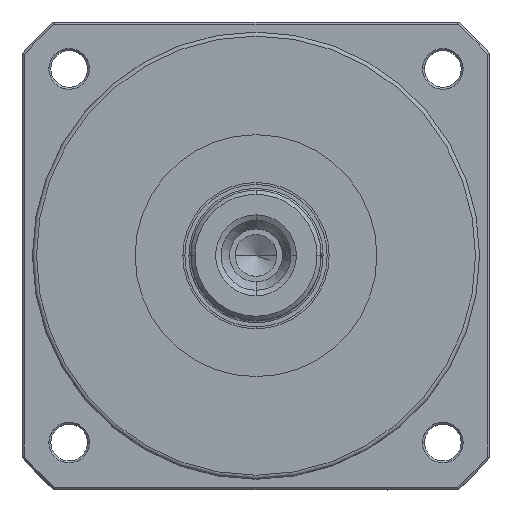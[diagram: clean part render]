
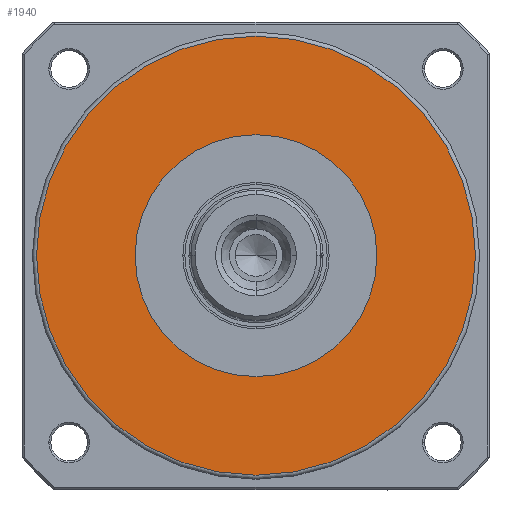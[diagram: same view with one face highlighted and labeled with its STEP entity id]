
A CAD part, top view. The second image highlights one B-rep face of the part: STEP entity #1940.
In plain terms, the highlighted planar face has unit normal (0, 0, 1).
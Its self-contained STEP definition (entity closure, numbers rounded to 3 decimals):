
#1940=ADVANCED_FACE('',(#2538,#2539),#2364,.T.);
#2364=PLANE('',#7642);
#2538=FACE_BOUND('',#2809,.T.);
#2539=FACE_BOUND('',#2810,.T.);
#2809=EDGE_LOOP('',(#3556,#3557));
#2810=EDGE_LOOP('',(#3558));
#3556=ORIENTED_EDGE('',*,*,#6191,.T.);
#3557=ORIENTED_EDGE('',*,*,#6193,.T.);
#3558=ORIENTED_EDGE('',*,*,#6108,.F.);
#5422=VERTEX_POINT('',#10727);
#5478=VERTEX_POINT('',#11161);
#5479=VERTEX_POINT('',#11163);
#6108=EDGE_CURVE('',#5422,#5422,#7130,.T.);
#6191=EDGE_CURVE('',#5479,#5478,#7171,.T.);
#6193=EDGE_CURVE('',#5478,#5479,#7172,.T.);
#7130=CIRCLE('',#7563,54.);
#7171=CIRCLE('',#7638,18.);
#7172=CIRCLE('',#7640,18.);
#7563=AXIS2_PLACEMENT_3D('',#10726,#8491,#8492);
#7638=AXIS2_PLACEMENT_3D('',#11162,#8677,#8678);
#7640=AXIS2_PLACEMENT_3D('',#11166,#8682,#8683);
#7642=AXIS2_PLACEMENT_3D('',#11168,#8686,#8687);
#8491=DIRECTION('',(0.,0.,-1.));
#8492=DIRECTION('',(0.,1.,0.));
#8677=DIRECTION('',(0.,0.,-1.));
#8678=DIRECTION('',(1.,0.,0.));
#8682=DIRECTION('',(0.,0.,-1.));
#8683=DIRECTION('',(1.,0.,0.));
#8686=DIRECTION('',(0.,0.,1.));
#8687=DIRECTION('',(-1.,0.,0.));
#10726=CARTESIAN_POINT('',(0.,0.,172.));
#10727=CARTESIAN_POINT('',(0.,54.,172.));
#11161=CARTESIAN_POINT('',(-18.,0.,172.));
#11162=CARTESIAN_POINT('',(0.,0.,172.));
#11163=CARTESIAN_POINT('',(18.,0.,172.));
#11166=CARTESIAN_POINT('',(0.,0.,172.));
#11168=CARTESIAN_POINT('',(0.,0.,172.));
